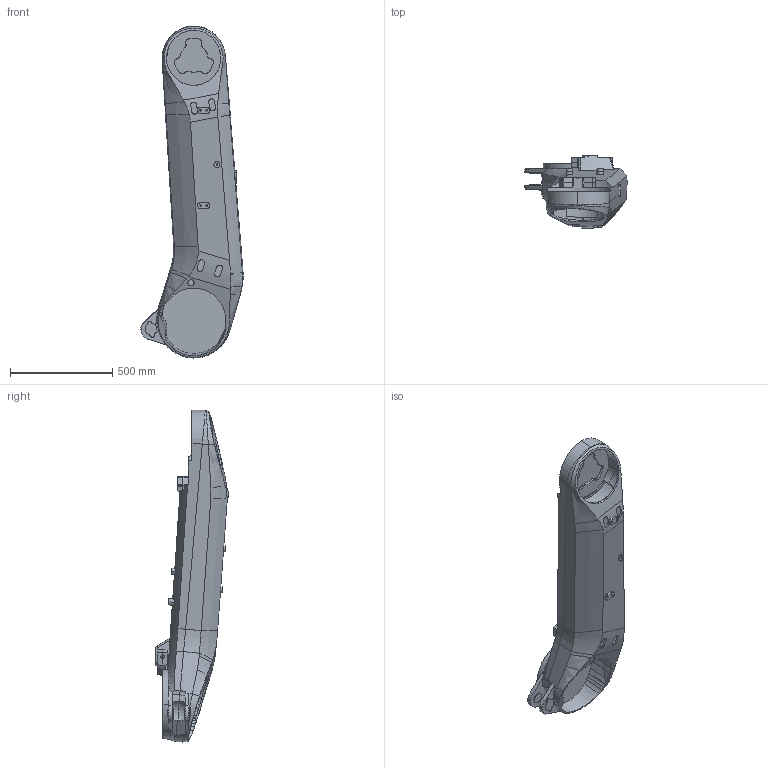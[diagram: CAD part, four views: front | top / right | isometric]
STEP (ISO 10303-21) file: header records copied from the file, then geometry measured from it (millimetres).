
FILE_DESCRIPTION (( 'STEP AP214' ), '1' );
FILE_NAME ('IRB6700-SW6_145-320_IRC5_rev04_LINK02_CAD.STEP', '2021-07-08T09:25:55', ( '' ), ( '' ), 'SwSTEP 2.0', 'SolidWorks 2020', '' );
FILE_SCHEMA (( 'AUTOMOTIVE_DESIGN' ));
Length unit declared in the file: millimetre
Products named in the file (1): IRB6700-SW6_145-320_IRC5_rev04_LINK02_CAD
Bounding box: 499.87 x 358 x 1622.66 mm (x, y, z)
Volume: 75119412.1 mm3; surface area: 1983149.1 mm2
Topology: 1 solids, 1 shells, 517 faces, 1382 edges, 882 vertices
Faces by surface type: plane 235, bspline 181, cylinder 60, cone 39, sphere 2
Entity records: 48029 total; most frequent: CARTESIAN_POINT 36811, ORIENTED_EDGE 2728, DIRECTION 1537, EDGE_CURVE 1364, VERTEX_POINT 882, LINE 621, VECTOR 621, B_SPLINE_CURVE_WITH_KNOTS 561
